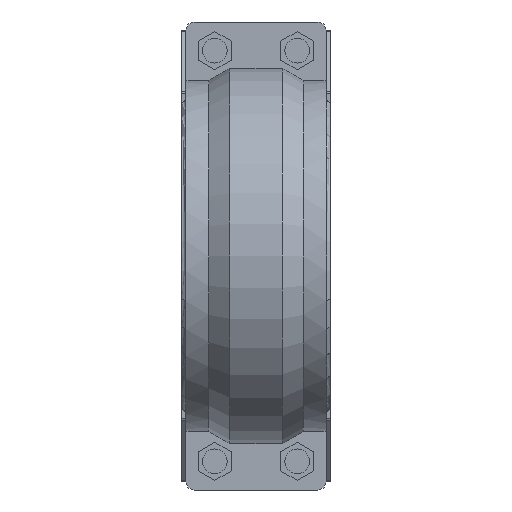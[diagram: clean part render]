
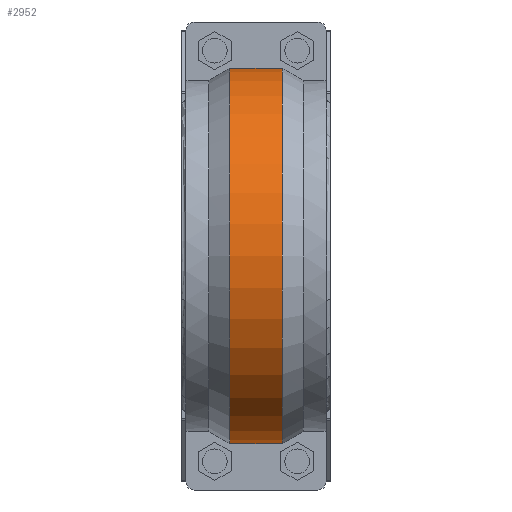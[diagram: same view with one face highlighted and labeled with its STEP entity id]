
A CAD part, front view. The second image highlights one B-rep face of the part: STEP entity #2952.
In plain terms, the highlighted cylindrical face has radius 144.64 mm (diameter 289.281 mm), a partial arc.
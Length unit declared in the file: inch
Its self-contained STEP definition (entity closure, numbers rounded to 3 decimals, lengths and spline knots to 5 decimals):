
#341=FACE_OUTER_BOUND('',#515,.T.);
#515=EDGE_LOOP('',(#2506,#2507,#2508,#2509));
#632=LINE('',#4413,#899);
#792=LINE('',#4917,#1059);
#899=VECTOR('',#3534,0.3937);
#1059=VECTOR('',#3972,0.3937);
#1121=CIRCLE('',#3119,5.6945);
#1155=CIRCLE('',#3218,5.6945);
#1269=VERTEX_POINT('',#4408);
#1270=VERTEX_POINT('',#4412);
#1315=VERTEX_POINT('',#4597);
#1414=VERTEX_POINT('',#4913);
#1571=EDGE_CURVE('',#1270,#1269,#632,.T.);
#1642=EDGE_CURVE('',#1315,#1269,#1121,.T.);
#1796=EDGE_CURVE('',#1315,#1414,#792,.T.);
#1803=EDGE_CURVE('',#1414,#1270,#1155,.T.);
#2506=ORIENTED_EDGE('',*,*,#1571,.T.);
#2507=ORIENTED_EDGE('',*,*,#1642,.F.);
#2508=ORIENTED_EDGE('',*,*,#1796,.T.);
#2509=ORIENTED_EDGE('',*,*,#1803,.T.);
#2648=CYLINDRICAL_SURFACE('',#3217,5.6945);
#2952=ADVANCED_FACE('',(#341),#2648,.T.);
#3119=AXIS2_PLACEMENT_3D('',#4601,#3669,#3670);
#3217=AXIS2_PLACEMENT_3D('',#4931,#3991,#3992);
#3218=AXIS2_PLACEMENT_3D('',#4932,#3993,#3994);
#3534=DIRECTION('',(1.,0.,0.));
#3669=DIRECTION('center_axis',(1.,0.,0.));
#3670=DIRECTION('ref_axis',(0.,0.,-1.));
#3972=DIRECTION('',(-1.,0.,0.));
#3991=DIRECTION('center_axis',(1.,0.,0.));
#3992=DIRECTION('ref_axis',(0.,-1.,0.));
#3993=DIRECTION('center_axis',(1.,0.,0.));
#3994=DIRECTION('ref_axis',(0.,0.,-1.));
#4408=CARTESIAN_POINT('',(0.8,-0.1875,-5.69142));
#4412=CARTESIAN_POINT('',(-0.8,-0.1875,-5.69142));
#4413=CARTESIAN_POINT('',(0.4,-0.1875,-5.69142));
#4597=CARTESIAN_POINT('',(0.8,-0.1875,5.69142));
#4601=CARTESIAN_POINT('Origin',(0.8,0.,0.));
#4913=CARTESIAN_POINT('',(-0.8,-0.1875,5.69142));
#4917=CARTESIAN_POINT('',(0.4,-0.1875,5.69142));
#4931=CARTESIAN_POINT('Origin',(0.4,0.,0.));
#4932=CARTESIAN_POINT('Origin',(-0.8,0.,0.));
